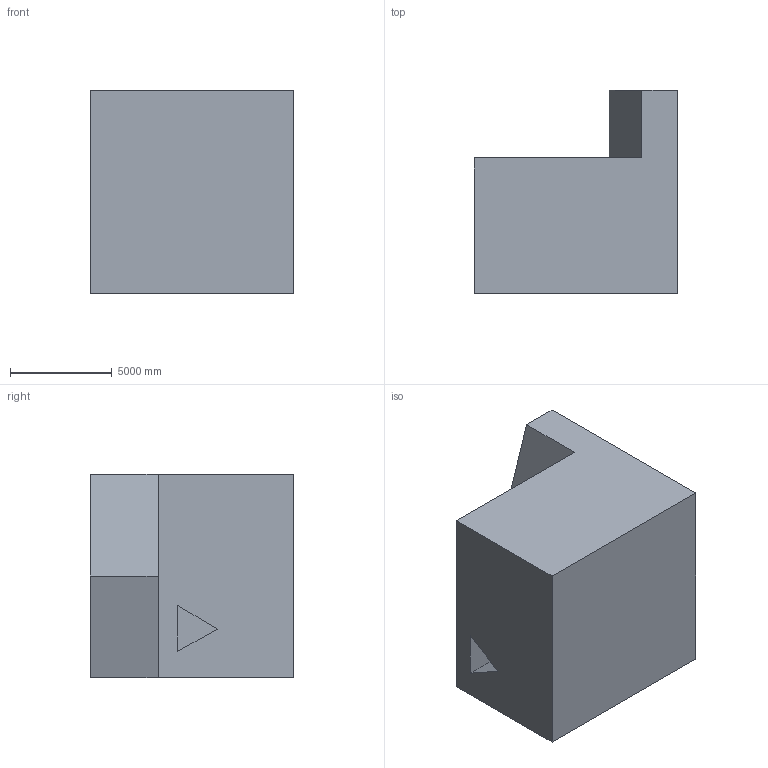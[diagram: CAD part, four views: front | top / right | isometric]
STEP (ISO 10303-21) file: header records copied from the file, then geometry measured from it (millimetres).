
FILE_DESCRIPTION (( 'STEP AP203' ), '1' );
FILE_NAME ('1090.STEP', '2022-08-18T12:43:05', ( 'user' ), ( '' ), 'SwSTEP 2.0', 'SolidWorks 2021', '' );
FILE_SCHEMA (( 'CONFIG_CONTROL_DESIGN' ));
Length unit declared in the file: centimetre
Products named in the file (1): 1090
Bounding box: 10000 x 10000 x 10000 mm (x, y, z)
Volume: 733637397131.7 mm3; surface area: 604031250.6 mm2
Topology: 1 solids, 1 shells, 13 faces, 30 edges, 20 vertices
Faces by surface type: plane 13
Entity records: 441 total; most frequent: CARTESIAN_POINT 64, ORIENTED_EDGE 60, DIRECTION 58, LINE 30, EDGE_CURVE 30, VECTOR 30, VERTEX_POINT 20, AXIS2_PLACEMENT_3D 14
